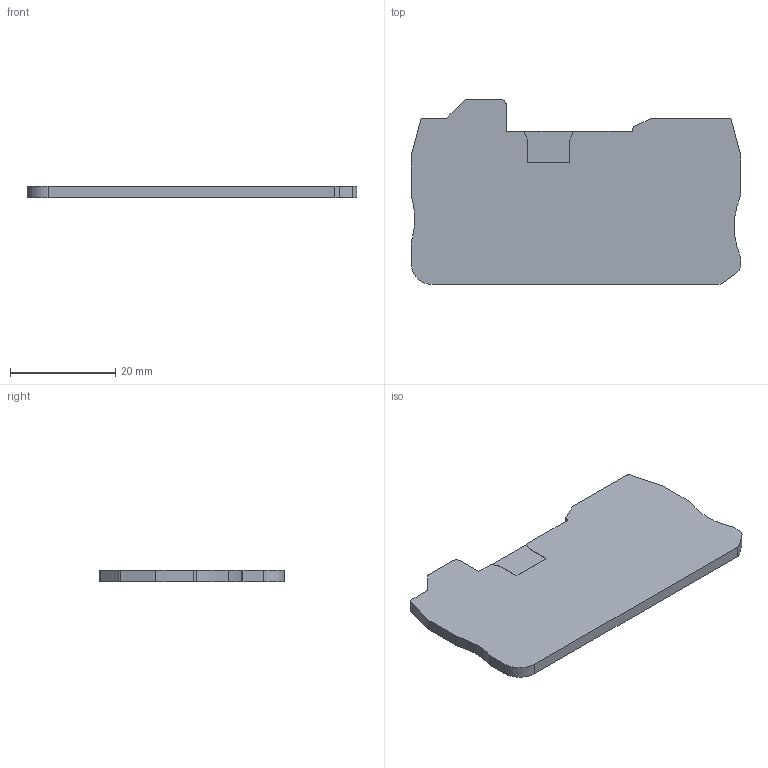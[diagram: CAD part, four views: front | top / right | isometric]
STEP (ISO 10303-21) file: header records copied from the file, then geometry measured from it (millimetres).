
FILE_DESCRIPTION(('OneSpaceDesigner STEP Export'),'2;1');
FILE_NAME('3206597_d_qtcu25_twin-select.stp','2005-03-03T13:55:37',(''),(''),'OneSpace Designer STEP processor (Jan. 2003) for AP203(Solid Model)','OneSpace Designer 12.01C 26-Mar-2004 (C) CoCreate Software GmbH','');
FILE_SCHEMA(('CONFIG_CONTROL_DESIGN'));
Length unit declared in the file: millimetre
Products named in the file (2): 3206597_d_qtcu25_twin-select
Assembly tree (1 placements, depth 2):
  3206597_d_qtcu25_twin-select
    3206597_d_qtcu25_twin-select
Bounding box: 62.6 x 35.05 x 2.2 mm (x, y, z)
Volume: 4178.6 mm3; surface area: 4237.7 mm2
Topology: 1 solids, 1 shells, 55 faces, 159 edges, 106 vertices
Faces by surface type: plane 30, cylinder 25
Entity records: 1949 total; most frequent: ORIENTED_EDGE 318, CARTESIAN_POINT 302, DIRECTION 287, EDGE_CURVE 159, VERTEX_POINT 106, VECTOR 105, LINE 105, AXIS2_PLACEMENT_3D 91
